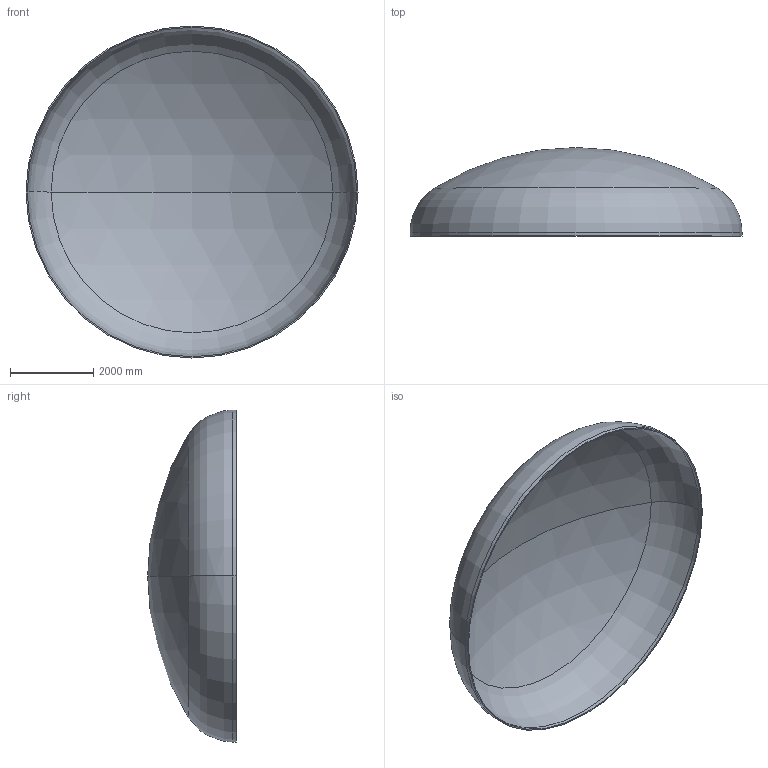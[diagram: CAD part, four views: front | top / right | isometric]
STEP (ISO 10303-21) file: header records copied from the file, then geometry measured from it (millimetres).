
FILE_DESCRIPTION (( 'STEP AP203' ), '1' );
FILE_NAME ('DIN 28013 Korbbogenform_-_Boden DIN 28013 - 8000 x 90 - I - s=29.step', '2016-07-04T11:00:10', ( '' ), ( '' ), 'SwSTEP 2.0', 'SolidWorks 2013', '' );
FILE_SCHEMA (( 'CONFIG_CONTROL_DESIGN' ));
Length unit declared in the file: millimetre
Products named in the file (1): DIN 28013 Korbbogenform_-_Boden DIN 28013 - 8000 x 90 - I - s=29
Bounding box: 8000 x 2135.41 x 8000 mm (x, y, z)
Volume: 2074080898.2 mm3; surface area: 143767972.9 mm2
Topology: 1 solids, 1 shells, 13 faces, 24 edges, 14 vertices
Faces by surface type: torus 4, cylinder 4, sphere 4, plane 1
Entity records: 407 total; most frequent: DIRECTION 72, CARTESIAN_POINT 52, ORIENTED_EDGE 48, AXIS2_PLACEMENT_3D 34, EDGE_CURVE 24, CIRCLE 20, VERTEX_POINT 14, EDGE_LOOP 14
